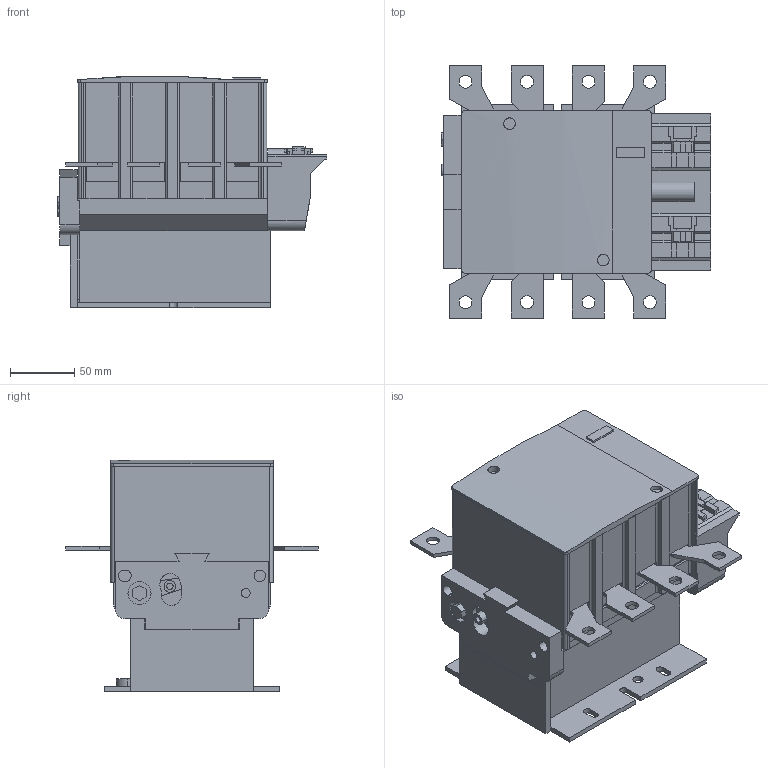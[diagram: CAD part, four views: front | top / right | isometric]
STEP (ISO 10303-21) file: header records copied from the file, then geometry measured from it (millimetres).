
FILE_DESCRIPTION((''),'2;1');
FILE_NAME('LC1F2254AC','2017-02-02T',('sesa358408'),('Schneider-Electric'),'PRO/ENGINEER BY PARAMETRIC TECHNOLOGY CORPORATION, 2014310','PRO/ENGINEER BY PARAMETRIC TECHNOLOGY CORPORATION, 2014310','');
FILE_SCHEMA(('CONFIG_CONTROL_DESIGN'));
Length unit declared in the file: millimetre
Products named in the file (1): LC1F2254AC
Bounding box: 210.5 x 197 x 180.66 mm (x, y, z)
Volume: 2050049.8 mm3; surface area: 310338.2 mm2
Topology: 1 solids, 1 shells, 677 faces, 1991 edges, 1294 vertices
Faces by surface type: plane 581, cylinder 96
Entity records: 22407 total; most frequent: CARTESIAN_POINT 4091, ORIENTED_EDGE 3982, DIRECTION 3549, EDGE_CURVE 1991, VECTOR 1753, LINE 1753, VERTEX_POINT 1294, AXIS2_PLACEMENT_3D 898
